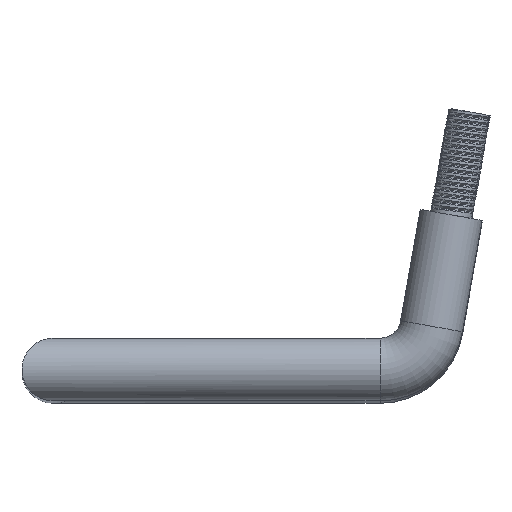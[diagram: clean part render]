
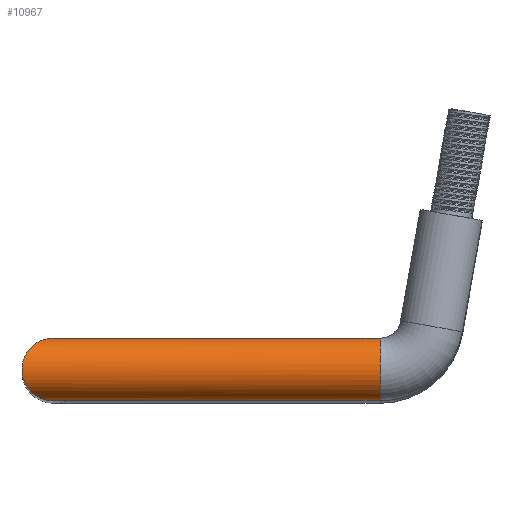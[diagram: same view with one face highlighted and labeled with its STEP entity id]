
A CAD part, top view. The second image highlights one B-rep face of the part: STEP entity #10967.
In plain terms, the highlighted cylindrical face has radius 6 mm (diameter 12 mm), a partial arc.
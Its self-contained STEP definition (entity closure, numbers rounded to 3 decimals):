
#1972 = VERTEX_POINT ( 'NONE', #2614 ) ;
#1975 = VERTEX_POINT ( 'NONE', #2608 ) ;
#2608 = CARTESIAN_POINT ( 'NONE',  ( 62.409, 6., 0. ) ) ;
#2614 = CARTESIAN_POINT ( 'NONE',  ( 62.409, -6., 0. ) ) ;
#3722 = DIRECTION ( 'NONE',  ( -1., 0., 0. ) ) ;
#3723 = VECTOR ( 'NONE', #3722, 1000. ) ;
#3724 = CARTESIAN_POINT ( 'NONE',  ( 62.409, -6., 0. ) ) ;
#3725 = LINE ( 'NONE', #3724, #3723 ) ;
#3829 = CIRCLE ( 'NONE', #3846, 6. ) ;
#3833 = CARTESIAN_POINT ( 'NONE',  ( -6., 0., 6. ) ) ;
#3835 = CARTESIAN_POINT ( 'NONE',  ( 0., 6., 0. ) ) ;
#3836 =( BOUNDED_CURVE ( )  B_SPLINE_CURVE ( 3, ( #3872, #3871, #3870, #3869 ),
 .UNSPECIFIED., .F., .F. ) 
 B_SPLINE_CURVE_WITH_KNOTS ( ( 4, 4 ),
 ( 0., 1.571 ),
 .UNSPECIFIED. ) 
 CURVE ( )  GEOMETRIC_REPRESENTATION_ITEM ( )  RATIONAL_B_SPLINE_CURVE ( ( 1., 0.805, 0.805, 1. ) ) 
 REPRESENTATION_ITEM ( '' )  );
#3837 = DIRECTION ( 'NONE',  ( 0., 1., 0. ) ) ;
#3838 = DIRECTION ( 'NONE',  ( 1., 0., 0. ) ) ;
#3839 = CARTESIAN_POINT ( 'NONE',  ( 62.409, 0., 0. ) ) ;
#3842 = CARTESIAN_POINT ( 'NONE',  ( -6., 0., 6. ) ) ;
#3843 = CARTESIAN_POINT ( 'NONE',  ( -6., -3.515, 6. ) ) ;
#3844 = CARTESIAN_POINT ( 'NONE',  ( -3.515, -6., 3.515 ) ) ;
#3845 = CARTESIAN_POINT ( 'NONE',  ( 0., -6., 0. ) ) ;
#3846 = AXIS2_PLACEMENT_3D ( 'NONE', #3839, #3838, #3837 ) ;
#3847 =( BOUNDED_CURVE ( )  B_SPLINE_CURVE ( 3, ( #3845, #3844, #3843, #3842 ),
 .UNSPECIFIED., .F., .T. ) 
 B_SPLINE_CURVE_WITH_KNOTS ( ( 4, 4 ),
 ( 4.712, 6.283 ),
 .UNSPECIFIED. ) 
 CURVE ( )  GEOMETRIC_REPRESENTATION_ITEM ( )  RATIONAL_B_SPLINE_CURVE ( ( 1., 0.805, 0.805, 1. ) ) 
 REPRESENTATION_ITEM ( '' )  );
#3848 = CARTESIAN_POINT ( 'NONE',  ( 0., -6., 0. ) ) ;
#3849 = EDGE_CURVE ( 'NONE', #1972, #4211, #3725, .T. ) ;
#3850 = DIRECTION ( 'NONE',  ( -1., 0., 0. ) ) ;
#3851 = VECTOR ( 'NONE', #3850, 1000. ) ;
#3852 = CARTESIAN_POINT ( 'NONE',  ( 62.409, 6., 0. ) ) ;
#3853 = LINE ( 'NONE', #3852, #3851 ) ;
#3863 = ORIENTED_EDGE ( 'NONE', *, *, #3849, .F. ) ;
#3869 = CARTESIAN_POINT ( 'NONE',  ( 0., 6., 0. ) ) ;
#3870 = CARTESIAN_POINT ( 'NONE',  ( -3.515, 6., 3.515 ) ) ;
#3871 = CARTESIAN_POINT ( 'NONE',  ( -6., 3.515, 6. ) ) ;
#3872 = CARTESIAN_POINT ( 'NONE',  ( -6., 0., 6. ) ) ;
#4039 = EDGE_CURVE ( 'NONE', #1975, #4229, #3853, .T. ) ;
#4045 = ORIENTED_EDGE ( 'NONE', *, *, #4058, .F. ) ;
#4048 = VERTEX_POINT ( 'NONE', #3833 ) ;
#4058 = EDGE_CURVE ( 'NONE', #4211, #4048, #3847, .T. ) ;
#4099 = EDGE_CURVE ( 'NONE', #1975, #1972, #3829, .T. ) ;
#4115 = ORIENTED_EDGE ( 'NONE', *, *, #4039, .T. ) ;
#4117 = EDGE_CURVE ( 'NONE', #4048, #4229, #3836, .T. ) ;
#4132 = ORIENTED_EDGE ( 'NONE', *, *, #4117, .F. ) ;
#4211 = VERTEX_POINT ( 'NONE', #3848 ) ;
#4229 = VERTEX_POINT ( 'NONE', #3835 ) ;
#10078 = AXIS2_PLACEMENT_3D ( 'NONE', #10084, #10083, #10103 ) ;
#10082 = CYLINDRICAL_SURFACE ( 'NONE', #10078, 6. ) ;
#10083 = DIRECTION ( 'NONE',  ( -1., 0., 0. ) ) ;
#10084 = CARTESIAN_POINT ( 'NONE',  ( 62.409, 0., 0. ) ) ;
#10103 = DIRECTION ( 'NONE',  ( 0., -1., 0. ) ) ;
#10116 = FACE_OUTER_BOUND ( 'NONE', #10971, .T. ) ;
#10967 = ADVANCED_FACE ( 'NONE', ( #10116 ), #10082, .T. ) ;
#10971 = EDGE_LOOP ( 'NONE', ( #11122, #4115, #4132, #4045, #3863 ) ) ;
#11122 = ORIENTED_EDGE ( 'NONE', *, *, #4099, .F. ) ;
